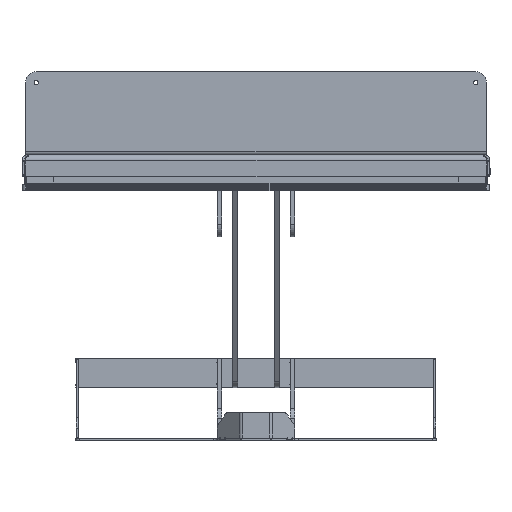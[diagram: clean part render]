
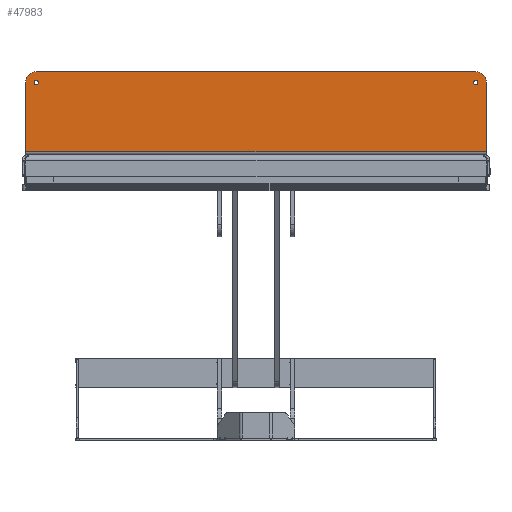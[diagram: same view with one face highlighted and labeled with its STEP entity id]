
A CAD part, left-side view. The second image highlights one B-rep face of the part: STEP entity #47983.
In plain terms, the highlighted planar face has unit normal (-1, 0, 0) as drawn and (0, 0, -1) by its records, which use the part's own axes.
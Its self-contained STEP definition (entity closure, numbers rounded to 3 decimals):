
#3033=PLANE('',#51713);
#5524=LINE('',#75106,#9784);
#5527=LINE('',#75112,#9787);
#5528=LINE('',#75114,#9788);
#5529=LINE('',#75116,#9789);
#9784=VECTOR('',#59964,1220.);
#9787=VECTOR('',#59969,192.);
#9788=VECTOR('',#59970,1280.);
#9789=VECTOR('',#59971,192.);
#12578=FACE_BOUND('',#16533,.T.);
#12579=FACE_BOUND('',#16534,.T.);
#13782=FACE_OUTER_BOUND('',#16532,.T.);
#16532=EDGE_LOOP('',(#37608,#37609,#37610,#37611,#37612,#37613));
#16533=EDGE_LOOP('',(#37614));
#16534=EDGE_LOOP('',(#37615));
#19406=CIRCLE('',#51678,6.);
#19408=CIRCLE('',#51681,6.);
#19426=CIRCLE('',#51711,30.);
#19427=CIRCLE('',#51714,30.);
#22220=VERTEX_POINT('',#75027);
#22222=VERTEX_POINT('',#75032);
#22248=VERTEX_POINT('',#75099);
#22249=VERTEX_POINT('',#75101);
#22250=VERTEX_POINT('',#75105);
#22252=VERTEX_POINT('',#75111);
#22253=VERTEX_POINT('',#75113);
#22254=VERTEX_POINT('',#75115);
#27804=EDGE_CURVE('',#22220,#22220,#19406,.T.);
#27806=EDGE_CURVE('',#22222,#22222,#19408,.T.);
#27836=EDGE_CURVE('',#22248,#22249,#19426,.T.);
#27838=EDGE_CURVE('',#22249,#22250,#5524,.T.);
#27841=EDGE_CURVE('',#22252,#22248,#5527,.T.);
#27842=EDGE_CURVE('',#22252,#22253,#5528,.T.);
#27843=EDGE_CURVE('',#22254,#22253,#5529,.T.);
#27844=EDGE_CURVE('',#22250,#22254,#19427,.T.);
#37608=ORIENTED_EDGE('',*,*,#27836,.F.);
#37609=ORIENTED_EDGE('',*,*,#27841,.F.);
#37610=ORIENTED_EDGE('',*,*,#27842,.T.);
#37611=ORIENTED_EDGE('',*,*,#27843,.F.);
#37612=ORIENTED_EDGE('',*,*,#27844,.F.);
#37613=ORIENTED_EDGE('',*,*,#27838,.F.);
#37614=ORIENTED_EDGE('',*,*,#27804,.T.);
#37615=ORIENTED_EDGE('',*,*,#27806,.T.);
#47983=ADVANCED_FACE('',(#13782,#12578,#12579),#3033,.F.);
#51678=AXIS2_PLACEMENT_3D('',#75028,#59881,#59882);
#51681=AXIS2_PLACEMENT_3D('',#75033,#59887,#59888);
#51711=AXIS2_PLACEMENT_3D('',#75102,#59959,#59960);
#51713=AXIS2_PLACEMENT_3D('',#75110,#59967,#59968);
#51714=AXIS2_PLACEMENT_3D('',#75117,#59972,#59973);
#59881=DIRECTION('center_axis',(0.,0.,1.));
#59882=DIRECTION('ref_axis',(1.,0.,0.));
#59887=DIRECTION('center_axis',(0.,0.,1.));
#59888=DIRECTION('ref_axis',(1.,0.,0.));
#59959=DIRECTION('center_axis',(0.,0.,1.));
#59960=DIRECTION('ref_axis',(0.707,0.707,0.));
#59964=DIRECTION('',(-1.,0.,0.));
#59967=DIRECTION('center_axis',(0.,0.,1.));
#59968=DIRECTION('ref_axis',(1.,0.,0.));
#59969=DIRECTION('',(0.,1.,0.));
#59970=DIRECTION('',(-1.,0.,0.));
#59971=DIRECTION('',(0.,-1.,0.));
#59972=DIRECTION('center_axis',(0.,0.,1.));
#59973=DIRECTION('ref_axis',(-0.707,0.707,0.));
#75027=CARTESIAN_POINT('',(616.,85.,0.));
#75028=CARTESIAN_POINT('Origin',(610.,85.,0.));
#75032=CARTESIAN_POINT('',(-604.,85.,0.));
#75033=CARTESIAN_POINT('Origin',(-610.,85.,0.));
#75099=CARTESIAN_POINT('',(640.,85.,0.));
#75101=CARTESIAN_POINT('',(610.,115.,0.));
#75102=CARTESIAN_POINT('Origin',(610.,85.,0.));
#75105=CARTESIAN_POINT('',(-610.,115.,0.));
#75106=CARTESIAN_POINT('',(640.,115.,0.));
#75110=CARTESIAN_POINT('Origin',(0.,0.,
0.));
#75111=CARTESIAN_POINT('',(640.,-107.,0.));
#75112=CARTESIAN_POINT('',(640.,-115.,0.));
#75113=CARTESIAN_POINT('',(-640.,-107.,0.));
#75114=CARTESIAN_POINT('',(320.,-107.,0.));
#75115=CARTESIAN_POINT('',(-640.,85.,0.));
#75116=CARTESIAN_POINT('',(-640.,115.,0.));
#75117=CARTESIAN_POINT('Origin',(-610.,85.,0.));
